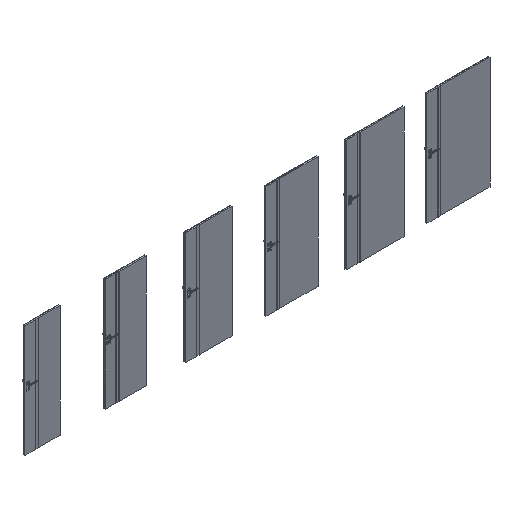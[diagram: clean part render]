
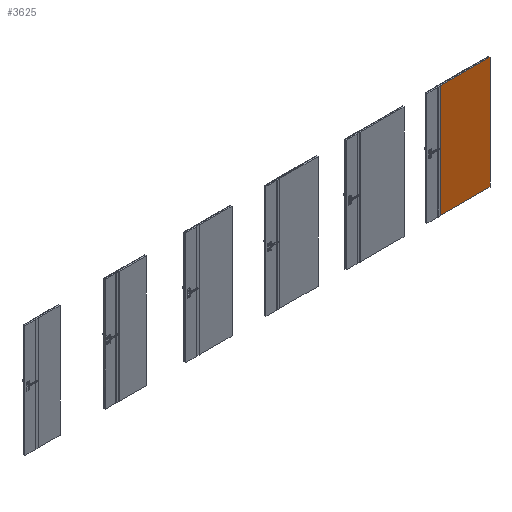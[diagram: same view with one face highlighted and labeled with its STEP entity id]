
A CAD part, isometric view. The second image highlights one B-rep face of the part: STEP entity #3625.
In plain terms, the highlighted planar face has unit normal (0, -1, 0).
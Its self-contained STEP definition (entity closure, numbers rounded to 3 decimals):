
#2377=FACE_OUTER_BOUND('',#6541,.T.);
#3625=ADVANCED_FACE('',(#2377),#4285,.F.);
#4285=PLANE('',#22142);
#6541=EDGE_LOOP('',(#11606,#11607,#11608,#11609));
#11606=ORIENTED_EDGE('',*,*,#16746,.F.);
#11607=ORIENTED_EDGE('',*,*,#16747,.T.);
#11608=ORIENTED_EDGE('',*,*,#16748,.F.);
#11609=ORIENTED_EDGE('',*,*,#16749,.F.);
#14034=VERTEX_POINT('',#40026);
#14035=VERTEX_POINT('',#40027);
#14036=VERTEX_POINT('',#40029);
#14037=VERTEX_POINT('',#40031);
#16746=EDGE_CURVE('',#14034,#14035,#18590,.T.);
#16747=EDGE_CURVE('',#14034,#14036,#18591,.T.);
#16748=EDGE_CURVE('',#14037,#14036,#18592,.T.);
#16749=EDGE_CURVE('',#14035,#14037,#18593,.T.);
#18590=LINE('',#40025,#20222);
#18591=LINE('',#40028,#20223);
#18592=LINE('',#40030,#20224);
#18593=LINE('',#40032,#20225);
#20222=VECTOR('',#27139,1.);
#20223=VECTOR('',#27140,1.);
#20224=VECTOR('',#27141,1.);
#20225=VECTOR('',#27142,1.);
#22142=AXIS2_PLACEMENT_3D('',#40033,#27143,#27144);
#27139=DIRECTION('',(0.,0.,1.));
#27140=DIRECTION('',(1.,0.,0.));
#27141=DIRECTION('',(0.,0.,-1.));
#27142=DIRECTION('',(1.,0.,0.));
#27143=DIRECTION('',(0.,1.,0.));
#27144=DIRECTION('',(-1.,0.,0.));
#40025=CARTESIAN_POINT('',(7182.15,-39.3,0.));
#40026=CARTESIAN_POINT('',(7182.15,-39.3,0.));
#40027=CARTESIAN_POINT('',(7182.15,-39.3,2027.));
#40028=CARTESIAN_POINT('',(7180.5,-39.3,0.));
#40029=CARTESIAN_POINT('',(8069.5,-39.3,0.));
#40030=CARTESIAN_POINT('',(8069.5,-39.3,2027.));
#40031=CARTESIAN_POINT('',(8069.5,-39.3,2027.));
#40032=CARTESIAN_POINT('',(7180.5,-39.3,2027.));
#40033=CARTESIAN_POINT('',(7180.5,-39.3,2027.));
